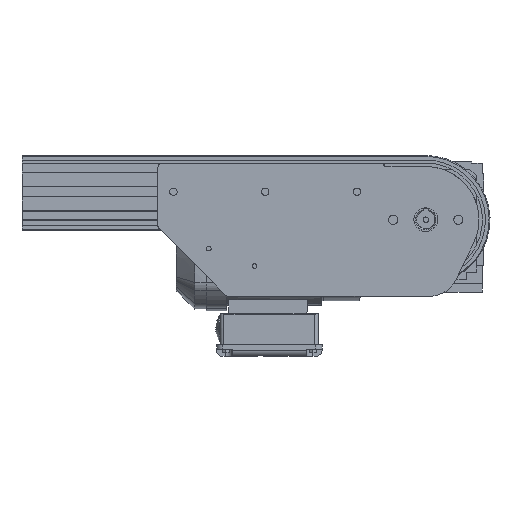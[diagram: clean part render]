
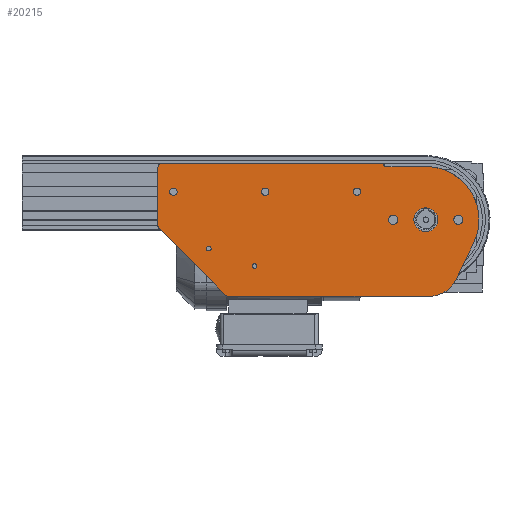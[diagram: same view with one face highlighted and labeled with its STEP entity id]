
A CAD part, front view. The second image highlights one B-rep face of the part: STEP entity #20215.
In plain terms, the highlighted planar face has unit normal (0, -1, 0).
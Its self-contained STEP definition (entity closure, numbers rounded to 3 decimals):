
#19525=CARTESIAN_POINT('',(-304.,-49.,-101.5));
#19526=VERTEX_POINT('',#19525);
#19527=CARTESIAN_POINT('',(-306.5,-49.,-101.5));
#19528=DIRECTION('',(0.0,1.0,0.0));
#19529=DIRECTION('',(-1.0,0.0,0.0));
#19530=AXIS2_PLACEMENT_3D('',#19527,#19528,#19529);
#19531=CIRCLE('',#19530,2.5);
#19532=EDGE_CURVE('',#19526,#19526,#19531,.T.);
#19545=CARTESIAN_POINT('',(-254.,-49.,-120.5));
#19546=VERTEX_POINT('',#19545);
#19547=CARTESIAN_POINT('',(-256.5,-49.,-120.5));
#19548=DIRECTION('',(0.0,1.0,0.0));
#19549=DIRECTION('',(-1.0,0.0,0.0));
#19550=AXIS2_PLACEMENT_3D('',#19547,#19548,#19549);
#19551=CIRCLE('',#19550,2.5);
#19552=EDGE_CURVE('',#19546,#19546,#19551,.T.);
#19565=CARTESIAN_POINT('',(-39.5,-49.0,-70.0));
#19566=VERTEX_POINT('',#19565);
#19567=CARTESIAN_POINT('',(-34.5,-49.0,-70.0));
#19568=DIRECTION('',(0.0,1.0,0.0));
#19569=DIRECTION('',(1.0,0.0,0.0));
#19570=AXIS2_PLACEMENT_3D('',#19567,#19568,#19569);
#19571=CIRCLE('',#19570,5.0);
#19572=EDGE_CURVE('',#19566,#19566,#19571,.T.);
#19585=CARTESIAN_POINT('',(-83.,-49.0,-70.));
#19586=VERTEX_POINT('',#19585);
#19587=CARTESIAN_POINT('',(-70.,-49.0,-70.));
#19588=DIRECTION('',(0.0,1.0,0.0));
#19589=DIRECTION('',(1.0,0.0,0.0));
#19590=AXIS2_PLACEMENT_3D('',#19587,#19588,#19589);
#19591=CIRCLE('',#19590,13.);
#19592=EDGE_CURVE('',#19586,#19586,#19591,.T.);
#19605=CARTESIAN_POINT('',(-110.5,-49.0,-70.));
#19606=VERTEX_POINT('',#19605);
#19607=CARTESIAN_POINT('',(-105.5,-49.0,-70.));
#19608=DIRECTION('',(0.0,1.0,0.0));
#19609=DIRECTION('',(1.0,0.0,0.0));
#19610=AXIS2_PLACEMENT_3D('',#19607,#19608,#19609);
#19611=CIRCLE('',#19610,5.0);
#19612=EDGE_CURVE('',#19606,#19606,#19611,.T.);
#19636=CARTESIAN_POINT('',(-349.0,-49.0,-39.5));
#19637=VERTEX_POINT('',#19636);
#19638=CARTESIAN_POINT('',(-345.0,-49.0,-39.5));
#19639=DIRECTION('',(0.0,1.0,0.0));
#19640=DIRECTION('',(1.0,0.0,0.0));
#19641=AXIS2_PLACEMENT_3D('',#19638,#19639,#19640);
#19642=CIRCLE('',#19641,4.);
#19643=EDGE_CURVE('',#19637,#19637,#19642,.T.);
#19664=CARTESIAN_POINT('',(-249.0,-49.0,-39.5));
#19665=VERTEX_POINT('',#19664);
#19666=CARTESIAN_POINT('',(-245.0,-49.0,-39.5));
#19667=DIRECTION('',(0.0,1.0,0.0));
#19668=DIRECTION('',(1.0,0.0,0.0));
#19669=AXIS2_PLACEMENT_3D('',#19666,#19667,#19668);
#19670=CIRCLE('',#19669,4.);
#19671=EDGE_CURVE('',#19665,#19665,#19670,.T.);
#19692=CARTESIAN_POINT('',(-149.0,-49.0,-39.5));
#19693=VERTEX_POINT('',#19692);
#19694=CARTESIAN_POINT('',(-145.0,-49.0,-39.5));
#19695=DIRECTION('',(0.0,1.0,0.0));
#19696=DIRECTION('',(1.0,0.0,0.0));
#19697=AXIS2_PLACEMENT_3D('',#19694,#19695,#19696);
#19698=CIRCLE('',#19697,4.);
#19699=EDGE_CURVE('',#19693,#19693,#19698,.T.);
#19823=CARTESIAN_POINT('',(-70.,-49.0,-12.));
#19824=VERTEX_POINT('',#19823);
#19831=CARTESIAN_POINT('',(-17.766,-49.0,-95.21));
#19832=VERTEX_POINT('',#19831);
#19833=CARTESIAN_POINT('',(-70.,-49.0,-70.));
#19834=DIRECTION('',(0.0,1.0,0.0));
#19835=DIRECTION('',(0.0,0.0,1.0));
#19836=AXIS2_PLACEMENT_3D('',#19833,#19834,#19835);
#19837=CIRCLE('',#19836,58.);
#19838=EDGE_CURVE('',#19824,#19832,#19837,.T.);
#19855=CARTESIAN_POINT('',(-116.,-49.0,-9.5));
#19856=VERTEX_POINT('',#19855);
#19857=CARTESIAN_POINT('',(-113.5,-49.0,-12.));
#19858=VERTEX_POINT('',#19857);
#19859=CARTESIAN_POINT('',(-113.5,-49.0,-9.5));
#19860=DIRECTION('',(0.0,-1.0,0.0));
#19861=DIRECTION('',(0.0,0.0,1.0));
#19862=AXIS2_PLACEMENT_3D('',#19859,#19860,#19861);
#19863=CIRCLE('',#19862,2.5);
#19864=EDGE_CURVE('',#19856,#19858,#19863,.T.);
#19896=CARTESIAN_POINT('',(-113.5,-49.0,-12.));
#19897=DIRECTION('',(1.0,0.0,0.0));
#19898=VECTOR('',#19897,43.5);
#19899=LINE('',#19896,#19898);
#19900=EDGE_CURVE('',#19858,#19824,#19899,.T.);
#19913=CARTESIAN_POINT('',(-37.031,-49.0,-135.127));
#19914=VERTEX_POINT('',#19913);
#19915=CARTESIAN_POINT('',(-17.766,-49.0,-95.21));
#19916=DIRECTION('',(-0.435,0.0,-0.901));
#19917=VECTOR('',#19916,44.322);
#19918=LINE('',#19915,#19917);
#19919=EDGE_CURVE('',#19832,#19914,#19918,.T.);
#19937=CARTESIAN_POINT('',(-66.3,-49.0,-153.5));
#19938=VERTEX_POINT('',#19937);
#19939=CARTESIAN_POINT('',(-66.3,-49.0,-121.));
#19940=DIRECTION('',(0.,1.,0.));
#19941=DIRECTION('',(0.901,0.,-0.435));
#19942=AXIS2_PLACEMENT_3D('',#19939,#19940,#19941);
#19943=CIRCLE('',#19942,32.5);
#19944=EDGE_CURVE('',#19914,#19938,#19943,.T.);
#19962=CARTESIAN_POINT('',(-284.787,-49.0,-153.5));
#19963=VERTEX_POINT('',#19962);
#19964=CARTESIAN_POINT('',(-66.3,-49.0,-153.5));
#19965=DIRECTION('',(-1.0,0.0,0.0));
#19966=VECTOR('',#19965,218.487);
#19967=LINE('',#19964,#19966);
#19968=EDGE_CURVE('',#19938,#19963,#19967,.T.);
#19986=CARTESIAN_POINT('',(-288.322,-49.0,-152.036));
#19987=VERTEX_POINT('',#19986);
#19988=CARTESIAN_POINT('',(-284.787,-49.0,-148.5));
#19989=DIRECTION('',(0.0,1.0,0.0));
#19990=DIRECTION('',(0.0,0.0,-1.0));
#19991=AXIS2_PLACEMENT_3D('',#19988,#19989,#19990);
#19992=CIRCLE('',#19991,5.);
#19993=EDGE_CURVE('',#19963,#19987,#19992,.T.);
#20011=CARTESIAN_POINT('',(-360.536,-49.0,-79.822));
#20012=VERTEX_POINT('',#20011);
#20013=CARTESIAN_POINT('',(-288.322,-49.0,-152.036));
#20014=DIRECTION('',(-0.707,0.0,0.707));
#20015=VECTOR('',#20014,102.125);
#20016=LINE('',#20013,#20015);
#20017=EDGE_CURVE('',#19987,#20012,#20016,.T.);
#20035=CARTESIAN_POINT('',(-362.,-49.0,-76.287));
#20036=VERTEX_POINT('',#20035);
#20037=CARTESIAN_POINT('',(-357.,-49.0,-76.287));
#20038=DIRECTION('',(0.,1.,0.));
#20039=DIRECTION('',(-0.707,0.,-0.707));
#20040=AXIS2_PLACEMENT_3D('',#20037,#20038,#20039);
#20041=CIRCLE('',#20040,5.);
#20042=EDGE_CURVE('',#20012,#20036,#20041,.T.);
#20071=CARTESIAN_POINT('',(-362.0,-49.0,-13.5));
#20072=VERTEX_POINT('',#20071);
#20073=CARTESIAN_POINT('',(-362.,-49.0,-76.287));
#20074=DIRECTION('',(0.0,0.0,1.0));
#20075=VECTOR('',#20074,62.787);
#20076=LINE('',#20073,#20075);
#20077=EDGE_CURVE('',#20036,#20072,#20076,.T.);
#20103=CARTESIAN_POINT('',(-357.0,-49.0,-8.5));
#20104=VERTEX_POINT('',#20103);
#20105=CARTESIAN_POINT('',(-357.0,-49.0,-13.5));
#20106=DIRECTION('',(0.0,1.0,0.0));
#20107=DIRECTION('',(-1.0,0.0,0.0));
#20108=AXIS2_PLACEMENT_3D('',#20105,#20106,#20107);
#20109=CIRCLE('',#20108,5.);
#20110=EDGE_CURVE('',#20072,#20104,#20109,.T.);
#20129=CARTESIAN_POINT('',(-116.0,-49.0,-8.5));
#20130=VERTEX_POINT('',#20129);
#20131=CARTESIAN_POINT('',(-357.,-49.0,-8.5));
#20132=DIRECTION('',(1.0,0.0,0.0));
#20133=VECTOR('',#20132,241.);
#20134=LINE('',#20131,#20133);
#20135=EDGE_CURVE('',#20104,#20130,#20134,.T.);
#20153=CARTESIAN_POINT('',(-116.0,-49.0,-8.5));
#20154=DIRECTION('',(0.0,0.0,-1.0));
#20155=VECTOR('',#20154,1.);
#20156=LINE('',#20153,#20155);
#20157=EDGE_CURVE('',#20130,#19856,#20156,.T.);
#20171=CARTESIAN_POINT('',(-189.216,-49.0,-76.196));
#20172=DIRECTION('',(0.0,1.0,0.0));
#20173=DIRECTION('',(-1.0,0.0,0.0));
#20174=AXIS2_PLACEMENT_3D('',#20171,#20172,#20173);
#20175=PLANE('',#20174);
#20176=ORIENTED_EDGE('',*,*,#19864,.F.);
#20177=ORIENTED_EDGE('',*,*,#20157,.F.);
#20178=ORIENTED_EDGE('',*,*,#20135,.F.);
#20179=ORIENTED_EDGE('',*,*,#20110,.F.);
#20180=ORIENTED_EDGE('',*,*,#20077,.F.);
#20181=ORIENTED_EDGE('',*,*,#20042,.F.);
#20182=ORIENTED_EDGE('',*,*,#20017,.F.);
#20183=ORIENTED_EDGE('',*,*,#19993,.F.);
#20184=ORIENTED_EDGE('',*,*,#19968,.F.);
#20185=ORIENTED_EDGE('',*,*,#19944,.F.);
#20186=ORIENTED_EDGE('',*,*,#19919,.F.);
#20187=ORIENTED_EDGE('',*,*,#19838,.F.);
#20188=ORIENTED_EDGE('',*,*,#19900,.F.);
#20189=EDGE_LOOP('',(#20176,#20177,#20178,#20179,#20180,#20181,#20182,#20183,#20184,#20185,#20186,#20187,#20188));
#20190=FACE_OUTER_BOUND('',#20189,.T.);
#20191=ORIENTED_EDGE('',*,*,#19532,.T.);
#20192=EDGE_LOOP('',(#20191));
#20193=FACE_BOUND('',#20192,.T.);
#20194=ORIENTED_EDGE('',*,*,#19552,.T.);
#20195=EDGE_LOOP('',(#20194));
#20196=FACE_BOUND('',#20195,.T.);
#20197=ORIENTED_EDGE('',*,*,#19572,.T.);
#20198=EDGE_LOOP('',(#20197));
#20199=FACE_BOUND('',#20198,.T.);
#20200=ORIENTED_EDGE('',*,*,#19592,.T.);
#20201=EDGE_LOOP('',(#20200));
#20202=FACE_BOUND('',#20201,.T.);
#20203=ORIENTED_EDGE('',*,*,#19612,.T.);
#20204=EDGE_LOOP('',(#20203));
#20205=FACE_BOUND('',#20204,.T.);
#20206=ORIENTED_EDGE('',*,*,#19643,.T.);
#20207=EDGE_LOOP('',(#20206));
#20208=FACE_BOUND('',#20207,.T.);
#20209=ORIENTED_EDGE('',*,*,#19671,.T.);
#20210=EDGE_LOOP('',(#20209));
#20211=FACE_BOUND('',#20210,.T.);
#20212=ORIENTED_EDGE('',*,*,#19699,.T.);
#20213=EDGE_LOOP('',(#20212));
#20214=FACE_BOUND('',#20213,.T.);
#20215=ADVANCED_FACE('',(#20190,#20193,#20196,#20199,#20202,#20205,#20208,#20211,#20214),#20175,.F.);
